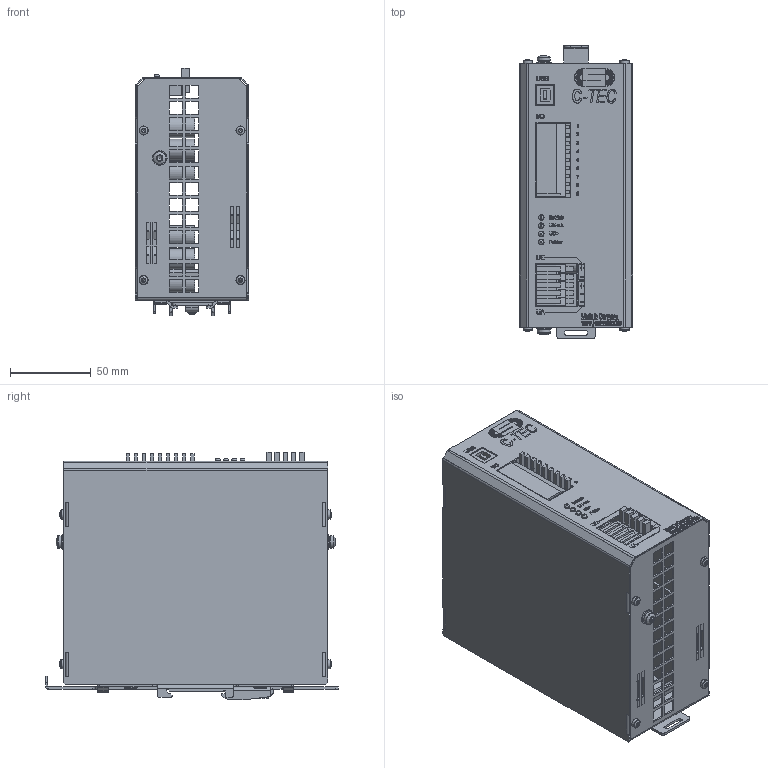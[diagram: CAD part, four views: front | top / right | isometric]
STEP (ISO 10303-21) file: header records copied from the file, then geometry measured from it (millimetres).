
FILE_DESCRIPTION(/* description */ (''),/* implementation_level */ '2;1');
FILE_NAME(/* name */ 'NCPA0609G01002.stp',/* time_stamp */ '2025-06-27T09:58:52+02:00',/* author */ ('mhe'),/* organization */ (''),/* preprocessor_version */ 'ST-DEVELOPER v20',/* originating_system */ 'Autodesk Inventor 2025',/* authorisation */ '');
FILE_SCHEMA (('AUTOMOTIVE_DESIGN { 1 0 10303 214 3 1 1 }'));
Products named in the file (14): 0609G01001-0001-1; 0609G01001-1000; 0609G01001-6010; 0609G01001-6015; 0609G01001-6020; 0609G01001-6024; 0609G01001-6025; 1970G01001-6000; 1970G01001-5001; VD176; 1970G01001-6002; DIN6900 M4x8-gvz; DIN7981 2,9x6,5 ; DIN 7337 - A4 x 6
Assembly tree (24 placements, depth 3):
  0609G01001-0001-1
    0609G01001-1000
    0609G01001-6010
      0609G01001-6015
    0609G01001-6020
      0609G01001-6024
      0609G01001-6025
    1970G01001-6000
      1970G01001-5001
      VD176
      1970G01001-6002
    DIN6900 M4x8-gvz  x2
    DIN7981 2,9x6,5   x8
    DIN 7337 - A4 x 6  x4
Bounding box: 69.99 x 181 x 153 mm (x, y, z)
Volume: 182170.8 mm3; surface area: 302160.3 mm2
Topology: 77 solids, 77 shells, 3016 faces, 7904 edges, 5186 vertices
Faces by surface type: plane 1874, cylinder 540, bspline 460, cone 92, torus 40, sphere 10
Full cylindrical faces by diameter (mm): 2.3 x4, 2.46 x6, 2.5 x8, 2.693 x8, 3 x14, 3.2 x36, 3.5 x8, 3.571 x2, 3.6 x2, 4 x6, 4.2 x6, 4.3 x6, 5.6 x8, 8 x6, 9 x2, 13 x6
Entity records: 92619 total; most frequent: CARTESIAN_POINT 24445, ORIENTED_EDGE 14468, DIRECTION 11735, EDGE_CURVE 7234, LINE 5401, VECTOR 5401, VERTEX_POINT 4750, EDGE_LOOP 3180
